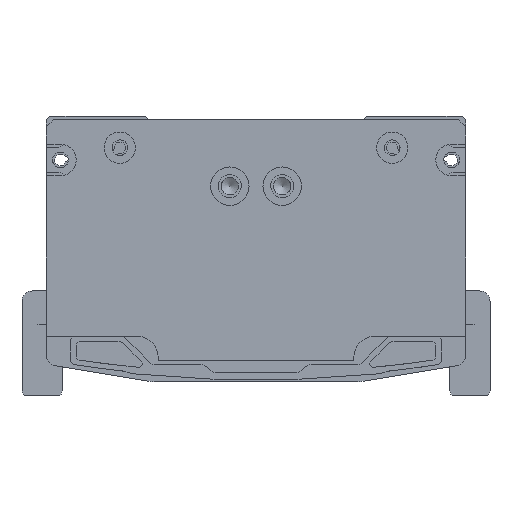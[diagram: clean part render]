
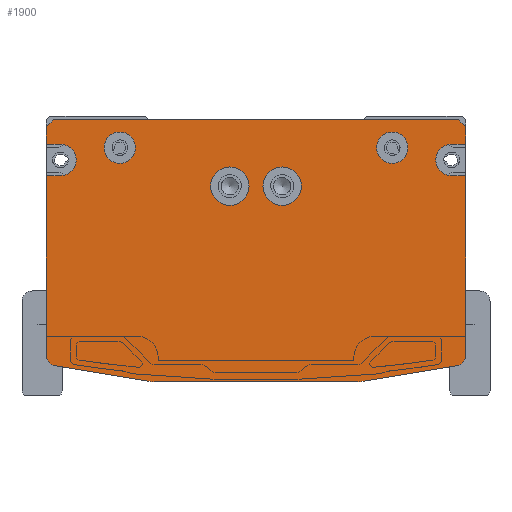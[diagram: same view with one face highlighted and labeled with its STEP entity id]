
A CAD part, front view. The second image highlights one B-rep face of the part: STEP entity #1900.
In plain terms, the highlighted planar face has unit normal (0, -1, 0).
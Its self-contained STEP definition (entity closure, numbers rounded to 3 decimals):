
#986=FACE_BOUND('',#3718,.T.);
#987=FACE_BOUND('',#3719,.T.);
#988=FACE_BOUND('',#3720,.T.);
#989=FACE_BOUND('',#3721,.T.);
#990=FACE_BOUND('',#3722,.T.);
#1900=ADVANCED_FACE('',(#986,#987,#988,#989,#990),#2524,.F.);
#2524=PLANE('',#15682);
#3718=EDGE_LOOP('',(#7316));
#3719=EDGE_LOOP('',(#7317));
#3720=EDGE_LOOP('',(#7318,#7319,#7320,#7321,#7322,#7323,#7324,#7325,#7326,
#7327,#7328,#7329,#7330,#7331,#7332,#7333,#7334,#7335,#7336,#7337));
#3721=EDGE_LOOP('',(#7338));
#3722=EDGE_LOOP('',(#7339));
#4802=CIRCLE('',#15583,5.5);
#4806=CIRCLE('',#15590,5.5);
#4809=CIRCLE('',#15596,4.5);
#4813=CIRCLE('',#15603,4.5);
#4820=CIRCLE('',#15621,4.5);
#4823=CIRCLE('',#15630,3.);
#4826=CIRCLE('',#15635,10.);
#4827=CIRCLE('',#15638,10.);
#4830=CIRCLE('',#15643,3.);
#4838=CIRCLE('',#15670,4.5);
#7316=ORIENTED_EDGE('',*,*,#11872,.T.);
#7317=ORIENTED_EDGE('',*,*,#11876,.T.);
#7318=ORIENTED_EDGE('',*,*,#11937,.T.);
#7319=ORIENTED_EDGE('',*,*,#11933,.F.);
#7320=ORIENTED_EDGE('',*,*,#11931,.F.);
#7321=ORIENTED_EDGE('',*,*,#11928,.F.);
#7322=ORIENTED_EDGE('',*,*,#11924,.T.);
#7323=ORIENTED_EDGE('',*,*,#11921,.T.);
#7324=ORIENTED_EDGE('',*,*,#11578,.F.);
#7325=ORIENTED_EDGE('',*,*,#11907,.T.);
#7326=ORIENTED_EDGE('',*,*,#11904,.T.);
#7327=ORIENTED_EDGE('',*,*,#11902,.F.);
#7328=ORIENTED_EDGE('',*,*,#11574,.F.);
#7329=ORIENTED_EDGE('',*,*,#11898,.T.);
#7330=ORIENTED_EDGE('',*,*,#11549,.F.);
#7331=ORIENTED_EDGE('',*,*,#11896,.T.);
#7332=ORIENTED_EDGE('',*,*,#11304,.F.);
#7333=ORIENTED_EDGE('',*,*,#11972,.T.);
#7334=ORIENTED_EDGE('',*,*,#11969,.T.);
#7335=ORIENTED_EDGE('',*,*,#11967,.F.);
#7336=ORIENTED_EDGE('',*,*,#11300,.F.);
#7337=ORIENTED_EDGE('',*,*,#11940,.T.);
#7338=ORIENTED_EDGE('',*,*,#11883,.F.);
#7339=ORIENTED_EDGE('',*,*,#11879,.F.);
#9742=VERTEX_POINT('',#22504);
#9743=VERTEX_POINT('',#22506);
#9746=VERTEX_POINT('',#22512);
#9747=VERTEX_POINT('',#22514);
#9872=VERTEX_POINT('',#23294);
#9873=VERTEX_POINT('',#23296);
#9888=VERTEX_POINT('',#23342);
#9889=VERTEX_POINT('',#23344);
#9892=VERTEX_POINT('',#23350);
#9893=VERTEX_POINT('',#23352);
#10092=VERTEX_POINT('',#24441);
#10096=VERTEX_POINT('',#24452);
#10099=VERTEX_POINT('',#24461);
#10102=VERTEX_POINT('',#24471);
#10110=VERTEX_POINT('',#24506);
#10112=VERTEX_POINT('',#24513);
#10123=VERTEX_POINT('',#24547);
#10125=VERTEX_POINT('',#24553);
#10128=VERTEX_POINT('',#24561);
#10130=VERTEX_POINT('',#24567);
#10131=VERTEX_POINT('',#24571);
#10134=VERTEX_POINT('',#24579);
#10146=VERTEX_POINT('',#24638);
#10148=VERTEX_POINT('',#24645);
#11300=EDGE_CURVE('',#9742,#9743,#13025,.T.);
#11304=EDGE_CURVE('',#9746,#9747,#13029,.T.);
#11549=EDGE_CURVE('',#9872,#9873,#13162,.T.);
#11574=EDGE_CURVE('',#9888,#9889,#13187,.T.);
#11578=EDGE_CURVE('',#9892,#9893,#13191,.T.);
#11872=EDGE_CURVE('',#10092,#10092,#4802,.T.);
#11876=EDGE_CURVE('',#10096,#10096,#4806,.T.);
#11879=EDGE_CURVE('',#10099,#10099,#4809,.T.);
#11883=EDGE_CURVE('',#10102,#10102,#4813,.T.);
#11896=EDGE_CURVE('',#9872,#9747,#13365,.T.);
#11898=EDGE_CURVE('',#9888,#9873,#13367,.T.);
#11902=EDGE_CURVE('',#9889,#10110,#13371,.T.);
#11904=EDGE_CURVE('',#10112,#10110,#4820,.T.);
#11907=EDGE_CURVE('',#9892,#10112,#13374,.T.);
#11921=EDGE_CURVE('',#10123,#9893,#4823,.T.);
#11924=EDGE_CURVE('',#10125,#10123,#13387,.T.);
#11928=EDGE_CURVE('',#10125,#10128,#4826,.T.);
#11931=EDGE_CURVE('',#10128,#10130,#13392,.T.);
#11933=EDGE_CURVE('',#10130,#10131,#4827,.T.);
#11937=EDGE_CURVE('',#10134,#10131,#13396,.T.);
#11940=EDGE_CURVE('',#9742,#10134,#4830,.T.);
#11967=EDGE_CURVE('',#9743,#10146,#13418,.T.);
#11969=EDGE_CURVE('',#10148,#10146,#4838,.T.);
#11972=EDGE_CURVE('',#9746,#10148,#13421,.T.);
#13025=LINE('',#22505,#14072);
#13029=LINE('',#22513,#14076);
#13162=LINE('',#23295,#14209);
#13187=LINE('',#23343,#14234);
#13191=LINE('',#23351,#14238);
#13365=LINE('',#24498,#14412);
#13367=LINE('',#24501,#14414);
#13371=LINE('',#24508,#14418);
#13374=LINE('',#24517,#14421);
#13387=LINE('',#24552,#14434);
#13392=LINE('',#24566,#14439);
#13396=LINE('',#24578,#14443);
#13418=LINE('',#24640,#14465);
#13421=LINE('',#24649,#14468);
#14072=VECTOR('',#17451,1.);
#14076=VECTOR('',#17455,1.);
#14209=VECTOR('',#17906,1.);
#14234=VECTOR('',#17945,1.);
#14238=VECTOR('',#17949,1.);
#14412=VECTOR('',#18709,1.);
#14414=VECTOR('',#18713,1.);
#14418=VECTOR('',#18719,1.);
#14421=VECTOR('',#18730,1.);
#14434=VECTOR('',#18763,1.);
#14439=VECTOR('',#18776,1.);
#14443=VECTOR('',#18788,1.);
#14465=VECTOR('',#18864,1.);
#14468=VECTOR('',#18875,1.);
#15583=AXIS2_PLACEMENT_3D('',#24440,#18634,#18635);
#15590=AXIS2_PLACEMENT_3D('',#24451,#18648,#18649);
#15596=AXIS2_PLACEMENT_3D('',#24460,#18660,#18661);
#15603=AXIS2_PLACEMENT_3D('',#24470,#18674,#18675);
#15621=AXIS2_PLACEMENT_3D('',#24512,#18724,#18725);
#15630=AXIS2_PLACEMENT_3D('',#24546,#18756,#18757);
#15635=AXIS2_PLACEMENT_3D('',#24560,#18770,#18771);
#15638=AXIS2_PLACEMENT_3D('',#24570,#18780,#18781);
#15643=AXIS2_PLACEMENT_3D('',#24583,#18794,#18795);
#15670=AXIS2_PLACEMENT_3D('',#24644,#18869,#18870);
#15682=AXIS2_PLACEMENT_3D('',#24666,#18900,#18901);
#17451=DIRECTION('',(0.,0.,1.));
#17455=DIRECTION('',(0.,0.,1.));
#17906=DIRECTION('',(1.,0.,0.));
#17945=DIRECTION('',(0.,0.,-1.));
#17949=DIRECTION('',(0.,0.,-1.));
#18634=DIRECTION('',(0.,1.,0.));
#18635=DIRECTION('',(1.,0.,0.));
#18648=DIRECTION('',(0.,1.,0.));
#18649=DIRECTION('',(1.,0.,0.));
#18660=DIRECTION('',(0.,-1.,0.));
#18661=DIRECTION('',(1.,0.,0.));
#18674=DIRECTION('',(0.,-1.,0.));
#18675=DIRECTION('',(1.,0.,0.));
#18709=DIRECTION('',(-0.707,0.,-0.707));
#18713=DIRECTION('',(-0.707,0.,0.707));
#18719=DIRECTION('',(-1.,0.,0.));
#18724=DIRECTION('',(0.,1.,0.));
#18725=DIRECTION('',(0.,0.,-1.));
#18730=DIRECTION('',(-1.,0.,0.));
#18756=DIRECTION('',(0.,-1.,0.));
#18757=DIRECTION('',(0.164,0.,-0.986));
#18763=DIRECTION('',(0.986,0.,0.164));
#18770=DIRECTION('',(0.,1.,0.));
#18771=DIRECTION('',(0.164,0.,-0.986));
#18776=DIRECTION('',(-1.,0.,0.));
#18780=DIRECTION('',(0.,1.,0.));
#18781=DIRECTION('',(0.,0.,-1.));
#18788=DIRECTION('',(0.986,0.,-0.164));
#18794=DIRECTION('',(0.,-1.,0.));
#18795=DIRECTION('',(-1.,0.,0.));
#18864=DIRECTION('',(1.,0.,0.));
#18869=DIRECTION('',(0.,1.,0.));
#18870=DIRECTION('',(0.,0.,1.));
#18875=DIRECTION('',(1.,0.,0.));
#18900=DIRECTION('',(0.,1.,0.));
#18901=DIRECTION('',(-1.,0.,0.));
#22504=CARTESIAN_POINT('',(-60.,-1012.,-69.459));
#22505=CARTESIAN_POINT('',(-60.,-1012.,-69.459));
#22506=CARTESIAN_POINT('',(-60.,-1012.,-18.));
#22512=CARTESIAN_POINT('',(-60.,-1012.,-9.));
#22513=CARTESIAN_POINT('',(-60.,-1012.,-9.));
#22514=CARTESIAN_POINT('',(-60.,-1012.,-4.));
#23294=CARTESIAN_POINT('',(-58.,-1012.,-2.));
#23295=CARTESIAN_POINT('',(-58.,-1012.,-2.));
#23296=CARTESIAN_POINT('',(58.,-1012.,-2.));
#23342=CARTESIAN_POINT('',(60.,-1012.,-4.));
#23343=CARTESIAN_POINT('',(60.,-1012.,-4.));
#23344=CARTESIAN_POINT('',(60.,-1012.,-9.));
#23350=CARTESIAN_POINT('',(60.,-1012.,-18.));
#23351=CARTESIAN_POINT('',(60.,-1012.,-18.));
#23352=CARTESIAN_POINT('',(60.,-1012.,-69.459));
#24440=CARTESIAN_POINT('',(7.5,-1012.,-21.));
#24441=CARTESIAN_POINT('',(13.,-1012.,-21.));
#24451=CARTESIAN_POINT('',(-7.5,-1012.,-21.));
#24452=CARTESIAN_POINT('',(-2.,-1012.,-21.));
#24460=CARTESIAN_POINT('',(-39.,-1012.,-10.));
#24461=CARTESIAN_POINT('',(-34.5,-1012.,-10.));
#24470=CARTESIAN_POINT('',(39.,-1012.,-10.));
#24471=CARTESIAN_POINT('',(43.5,-1012.,-10.));
#24498=CARTESIAN_POINT('',(-58.,-1012.,-2.));
#24501=CARTESIAN_POINT('',(60.,-1012.,-4.));
#24506=CARTESIAN_POINT('',(56.,-1012.,-9.));
#24508=CARTESIAN_POINT('',(60.,-1012.,-9.));
#24512=CARTESIAN_POINT('',(56.,-1012.,-13.5));
#24513=CARTESIAN_POINT('',(56.,-1012.,-18.));
#24517=CARTESIAN_POINT('',(60.,-1012.,-18.));
#24546=CARTESIAN_POINT('',(57.,-1012.,-69.459));
#24547=CARTESIAN_POINT('',(57.493,-1012.,-72.418));
#24552=CARTESIAN_POINT('',(30.816,-1012.,-76.864));
#24553=CARTESIAN_POINT('',(30.816,-1012.,-76.864));
#24560=CARTESIAN_POINT('',(29.172,-1012.,-67.));
#24561=CARTESIAN_POINT('',(29.172,-1012.,-77.));
#24566=CARTESIAN_POINT('',(29.172,-1012.,-77.));
#24567=CARTESIAN_POINT('',(-29.172,-1012.,-77.));
#24570=CARTESIAN_POINT('',(-29.172,-1012.,-67.));
#24571=CARTESIAN_POINT('',(-30.816,-1012.,-76.864));
#24578=CARTESIAN_POINT('',(-57.493,-1012.,-72.418));
#24579=CARTESIAN_POINT('',(-57.493,-1012.,-72.418));
#24583=CARTESIAN_POINT('',(-57.,-1012.,-69.459));
#24638=CARTESIAN_POINT('',(-56.,-1012.,-18.));
#24640=CARTESIAN_POINT('',(-60.,-1012.,-18.));
#24644=CARTESIAN_POINT('',(-56.,-1012.,-13.5));
#24645=CARTESIAN_POINT('',(-56.,-1012.,-9.));
#24649=CARTESIAN_POINT('',(-60.,-1012.,-9.));
#24666=CARTESIAN_POINT('',(0.,-1012.,-2.));
